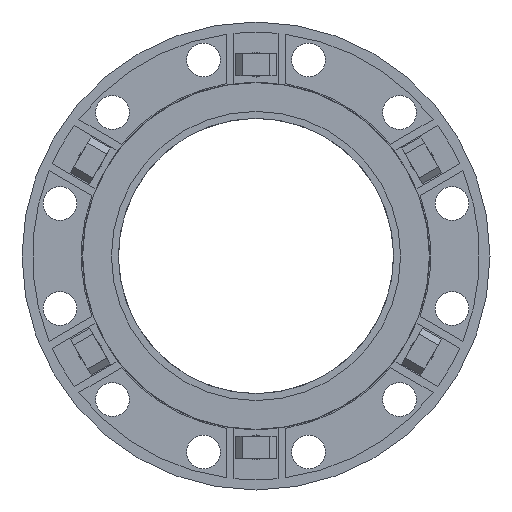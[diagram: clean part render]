
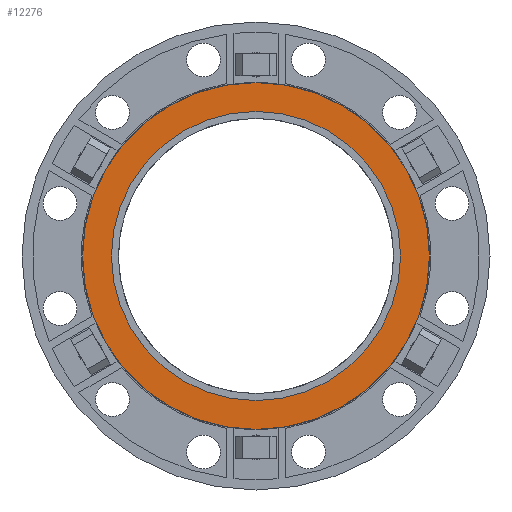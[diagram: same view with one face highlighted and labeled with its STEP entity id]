
A CAD part, front view. The second image highlights one B-rep face of the part: STEP entity #12276.
In plain terms, the highlighted planar face has unit normal (0, -1, 0).
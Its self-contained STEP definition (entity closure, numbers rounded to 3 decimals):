
#537 = AXIS2_PLACEMENT_3D ( 'NONE', #12041, #7889, #6626 ) ;
#1357 = CARTESIAN_POINT ( 'NONE',  ( 0., -3., 0. ) ) ;
#1714 = EDGE_CURVE ( 'Defeatured_0_258+Defeatured_0_385+Defeatured_0_385+Defeatured_0_385', #11922, #2978, #10667, .T. ) ;
#1857 = AXIS2_PLACEMENT_3D ( 'NONE', #1357, #4082, #2457 ) ;
#2183 = EDGE_LOOP ( 'NONE', ( #8475, #14543 ) ) ;
#2457 = DIRECTION ( 'NONE',  ( 0., 0., 1. ) ) ;
#2657 = EDGE_CURVE ( 'Defeatured_0_259+Defeatured_0_258+Defeatured_0_258+Defeatured_0_258', #5751, #7304, #9542, .T. ) ;
#2978 = VERTEX_POINT ( 'NONE', #16547 ) ;
#3530 = DIRECTION ( 'NONE',  ( 0., 1., 0. ) ) ;
#4082 = DIRECTION ( 'NONE',  ( 0., 1., 0. ) ) ;
#5751 = VERTEX_POINT ( 'NONE', #11297 ) ;
#5827 = CARTESIAN_POINT ( 'NONE',  ( 0., -3., 0. ) ) ;
#6031 = CARTESIAN_POINT ( 'NONE',  ( 0., -3., 0. ) ) ;
#6170 = CARTESIAN_POINT ( 'NONE',  ( 0., -3., 0. ) ) ;
#6516 = AXIS2_PLACEMENT_3D ( 'NONE', #6170, #3530, #13117 ) ;
#6626 = DIRECTION ( 'NONE',  ( 0., 0., 1. ) ) ;
#7061 = AXIS2_PLACEMENT_3D ( 'NONE', #5827, #15391, #14214 ) ;
#7304 = VERTEX_POINT ( 'NONE', #15879 ) ;
#7486 = DIRECTION ( 'NONE',  ( 0., 0., 1. ) ) ;
#7889 = DIRECTION ( 'NONE',  ( 0., 1., 0. ) ) ;
#8452 = FACE_BOUND ( 'NONE', #17366, .T. ) ;
#8475 = ORIENTED_EDGE ( 'NONE', *, *, #2657, .F. ) ;
#8734 = DIRECTION ( 'NONE',  ( 0., 1., 0. ) ) ;
#9542 = CIRCLE ( 'NONE', #15007, 126. ) ;
#10667 = CIRCLE ( 'NONE', #537, 105. ) ;
#11297 = CARTESIAN_POINT ( 'NONE',  ( 0., -3., -126. ) ) ;
#11922 = VERTEX_POINT ( 'NONE', #16707 ) ;
#12041 = CARTESIAN_POINT ( 'NONE',  ( 0., -3., 0. ) ) ;
#12276 = ADVANCED_FACE ( 'Defeatured_0_258', ( #8452, #13954 ), #12875, .F. ) ;
#12875 = PLANE ( 'NONE',  #7061 ) ;
#13117 = DIRECTION ( 'NONE',  ( 0., 0., 1. ) ) ;
#13954 = FACE_OUTER_BOUND ( 'NONE', #2183, .T. ) ;
#14214 = DIRECTION ( 'NONE',  ( 0., 0., 1. ) ) ;
#14543 = ORIENTED_EDGE ( 'NONE', *, *, #16724, .F. ) ;
#14822 = EDGE_CURVE ( 'Defeatured_0_258+Defeatured_0_385+Defeatured_0_385+Defeatured_0_385', #2978, #11922, #16594, .T. ) ;
#15007 = AXIS2_PLACEMENT_3D ( 'NONE', #6031, #8734, #7486 ) ;
#15391 = DIRECTION ( 'NONE',  ( 0., 1., 0. ) ) ;
#15494 = ORIENTED_EDGE ( 'NONE', *, *, #14822, .T. ) ;
#15879 = CARTESIAN_POINT ( 'NONE',  ( 0., -3., 126. ) ) ;
#16302 = CIRCLE ( 'NONE', #6516, 126. ) ;
#16547 = CARTESIAN_POINT ( 'NONE',  ( 0., -3., -105. ) ) ;
#16594 = CIRCLE ( 'NONE', #1857, 105. ) ;
#16707 = CARTESIAN_POINT ( 'NONE',  ( 0., -3., 105. ) ) ;
#16724 = EDGE_CURVE ( 'Defeatured_0_259+Defeatured_0_258+Defeatured_0_258+Defeatured_0_258', #7304, #5751, #16302, .T. ) ;
#17366 = EDGE_LOOP ( 'NONE', ( #15494, #17570 ) ) ;
#17570 = ORIENTED_EDGE ( 'NONE', *, *, #1714, .T. ) ;
